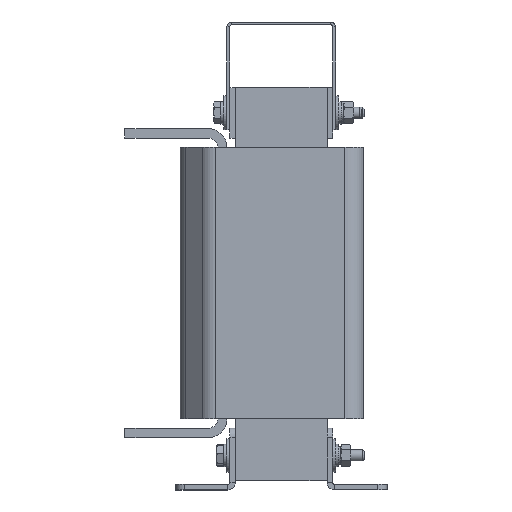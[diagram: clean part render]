
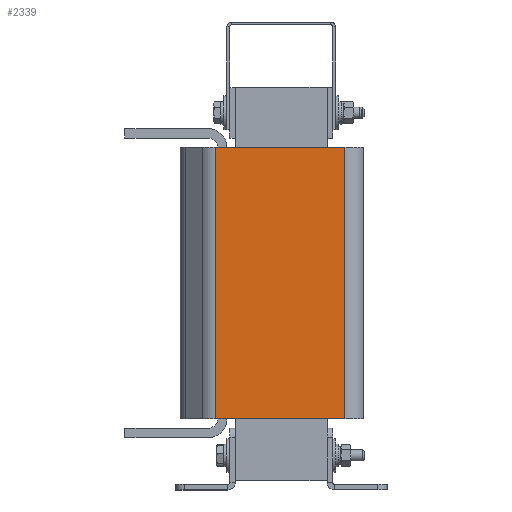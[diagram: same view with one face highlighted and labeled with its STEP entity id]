
A CAD part, left-side view. The second image highlights one B-rep face of the part: STEP entity #2339.
In plain terms, the highlighted planar face has unit normal (-1, 0, 0).
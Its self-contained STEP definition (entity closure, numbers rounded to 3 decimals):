
#2339=ADVANCED_FACE('',(#3414),#3416,.T.);
#3414=FACE_BOUND('',#3415,.T.);
#3415=EDGE_LOOP('',(#4567,#4568,#4569,#4570));
#3416=PLANE('',#3417);
#3417=AXIS2_PLACEMENT_3D('',#3418,#3419,#3420);
#3418=CARTESIAN_POINT('',(-34.,34.957,0.));
#3419=DIRECTION('',(-1.,0.,0.));
#3420=DIRECTION('',(0.,-1.,0.));
#4567=ORIENTED_EDGE('',*,*,#5116,.T.);
#4568=ORIENTED_EDGE('',*,*,#5152,.T.);
#4569=ORIENTED_EDGE('',*,*,#5141,.F.);
#4570=ORIENTED_EDGE('',*,*,#5153,.F.);
#5116=EDGE_CURVE('',#5601,#5598,#5602,.T.);
#5141=EDGE_CURVE('',#5649,#5651,#5652,.T.);
#5152=EDGE_CURVE('',#5598,#5651,#5667,.T.);
#5153=EDGE_CURVE('',#5601,#5649,#5668,.T.);
#5598=VERTEX_POINT('',#6584);
#5601=VERTEX_POINT('',#6590);
#5602=LINE('',#6591,#6592);
#5649=VERTEX_POINT('',#6695);
#5651=VERTEX_POINT('',#6700);
#5652=LINE('',#6701,#6702);
#5667=LINE('',#6739,#6740);
#5668=LINE('',#6742,#6743);
#6584=CARTESIAN_POINT('',(-34.,-34.,0.));
#6590=CARTESIAN_POINT('',(-34.,34.957,0.));
#6591=CARTESIAN_POINT('',(-34.,34.957,0.));
#6592=VECTOR('',#6593,1.);
#6593=DIRECTION('',(0.,-1.,0.));
#6695=CARTESIAN_POINT('',(-34.,34.957,145.));
#6700=CARTESIAN_POINT('',(-34.,-34.,145.));
#6701=CARTESIAN_POINT('',(-34.,34.957,145.));
#6702=VECTOR('',#6703,1.);
#6703=DIRECTION('',(0.,-1.,0.));
#6739=CARTESIAN_POINT('',(-34.,-34.,0.));
#6740=VECTOR('',#6741,1.);
#6741=DIRECTION('',(0.,0.,1.));
#6742=CARTESIAN_POINT('',(-34.,34.957,0.));
#6743=VECTOR('',#6744,1.);
#6744=DIRECTION('',(0.,0.,1.));
